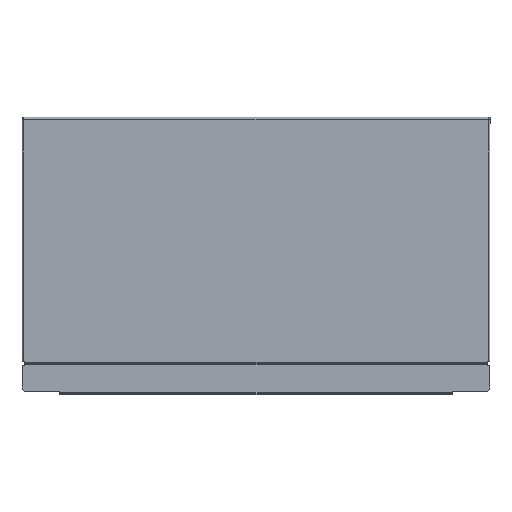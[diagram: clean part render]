
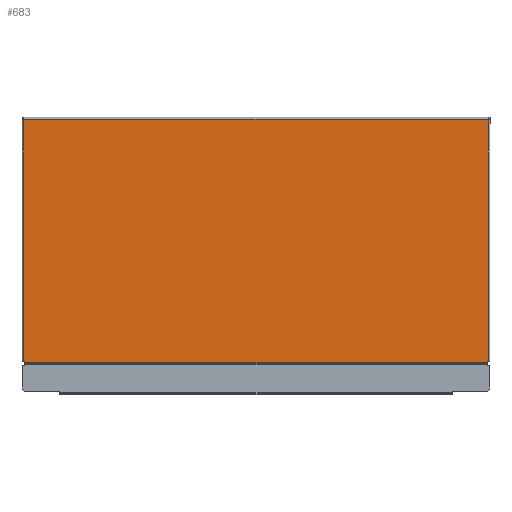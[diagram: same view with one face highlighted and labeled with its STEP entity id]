
A CAD part, front view. The second image highlights one B-rep face of the part: STEP entity #683.
In plain terms, the highlighted planar face has unit normal (0, -1, 0).
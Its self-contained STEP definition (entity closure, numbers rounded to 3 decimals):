
#1 = DIRECTION ( 'NONE',  ( 1., 0., 0. ) ) ;
#2 = CARTESIAN_POINT ( 'NONE',  ( 128.5, -6., 17.5 ) ) ;
#11 = DIRECTION ( 'NONE',  ( 0., 0., -1. ) ) ;
#12 = CARTESIAN_POINT ( 'NONE',  ( 129., -6., 170.385 ) ) ;
#13 = DIRECTION ( 'NONE',  ( 0., 0., -1. ) ) ;
#59 = VERTEX_POINT ( 'NONE', #463 ) ;
#128 = DIRECTION ( 'NONE',  ( 1., 0., 0. ) ) ;
#129 = VERTEX_POINT ( 'NONE', #439 ) ;
#130 = DIRECTION ( 'NONE',  ( 0., -1., 0. ) ) ;
#131 = CARTESIAN_POINT ( 'NONE',  ( -130., -6., 17. ) ) ;
#133 = PLANE ( 'NONE',  #1305 ) ;
#246 = CARTESIAN_POINT ( 'NONE',  ( 129., -6., 170.385 ) ) ;
#254 = DIRECTION ( 'NONE',  ( 1., 0., 0. ) ) ;
#280 = CARTESIAN_POINT ( 'NONE',  ( -130., -6., 152. ) ) ;
#285 = DIRECTION ( 'NONE',  ( 0., 0., -1. ) ) ;
#302 = CARTESIAN_POINT ( 'NONE',  ( -129., -6., 170.385 ) ) ;
#317 = VERTEX_POINT ( 'NONE', #388 ) ;
#328 = CARTESIAN_POINT ( 'NONE',  ( 129., -6., 151.5 ) ) ;
#330 = CARTESIAN_POINT ( 'NONE',  ( 128.5, -6., 17.5 ) ) ;
#336 = CARTESIAN_POINT ( 'NONE',  ( 128.5, -6., 17. ) ) ;
#338 = CARTESIAN_POINT ( 'NONE',  ( -128.5, -6., 17. ) ) ;
#345 = CARTESIAN_POINT ( 'NONE',  ( 129., -6., 17.5 ) ) ;
#346 = CARTESIAN_POINT ( 'NONE',  ( -129., -6., 151.5 ) ) ;
#354 = CARTESIAN_POINT ( 'NONE',  ( 129., -6., 152. ) ) ;
#388 = CARTESIAN_POINT ( 'NONE',  ( -129., -6., 152. ) ) ;
#439 = CARTESIAN_POINT ( 'NONE',  ( -128.5, -6., 17.5 ) ) ;
#463 = CARTESIAN_POINT ( 'NONE',  ( -129., -6., 17.5 ) ) ;
#531 = VERTEX_POINT ( 'NONE', #354 ) ;
#537 = VERTEX_POINT ( 'NONE', #346 ) ;
#538 = VERTEX_POINT ( 'NONE', #345 ) ;
#545 = VERTEX_POINT ( 'NONE', #338 ) ;
#547 = VERTEX_POINT ( 'NONE', #336 ) ;
#553 = VERTEX_POINT ( 'NONE', #330 ) ;
#555 = VERTEX_POINT ( 'NONE', #328 ) ;
#560 = CARTESIAN_POINT ( 'NONE',  ( -130., -6., 17. ) ) ;
#561 = DIRECTION ( 'NONE',  ( 1., 0., 0. ) ) ;
#588 = CARTESIAN_POINT ( 'NONE',  ( -129., -6., 170.385 ) ) ;
#589 = DIRECTION ( 'NONE',  ( 0., 0., -1. ) ) ;
#608 = CARTESIAN_POINT ( 'NONE',  ( -130., -6., 17.5 ) ) ;
#609 = DIRECTION ( 'NONE',  ( 1., 0., 0. ) ) ;
#610 = CARTESIAN_POINT ( 'NONE',  ( -128.5, -6., 17.5 ) ) ;
#611 = DIRECTION ( 'NONE',  ( 0., 0., -1. ) ) ;
#683 = ADVANCED_FACE ( 'NONE', ( #2041 ), #133, .T. ) ;
#875 = EDGE_LOOP ( 'NONE', ( #1974, #1973, #1972, #1971, #1970, #1969, #1968, #1967, #1966, #1965 ) ) ;
#1260 = EDGE_CURVE ( 'NONE', #317, #537, #2406, .T. ) ;
#1261 = EDGE_CURVE ( 'NONE', #317, #531, #2408, .T. ) ;
#1262 = EDGE_CURVE ( 'NONE', #531, #555, #2410, .T. ) ;
#1263 = EDGE_CURVE ( 'NONE', #555, #538, #2412, .T. ) ;
#1264 = EDGE_CURVE ( 'NONE', #553, #538, #2414, .T. ) ;
#1265 = EDGE_CURVE ( 'NONE', #547, #553, #2416, .T. ) ;
#1266 = EDGE_CURVE ( 'NONE', #545, #547, #2418, .T. ) ;
#1305 = AXIS2_PLACEMENT_3D ( 'NONE', #131, #130, #128 ) ;
#1472 = EDGE_CURVE ( 'NONE', #537, #59, #2442, .T. ) ;
#1501 = EDGE_CURVE ( 'NONE', #59, #129, #2453, .T. ) ;
#1502 = EDGE_CURVE ( 'NONE', #129, #545, #2456, .T. ) ;
#1965 = ORIENTED_EDGE ( 'NONE', *, *, #1260, .T. ) ;
#1966 = ORIENTED_EDGE ( 'NONE', *, *, #1261, .F. ) ;
#1967 = ORIENTED_EDGE ( 'NONE', *, *, #1262, .F. ) ;
#1968 = ORIENTED_EDGE ( 'NONE', *, *, #1263, .F. ) ;
#1969 = ORIENTED_EDGE ( 'NONE', *, *, #1264, .T. ) ;
#1970 = ORIENTED_EDGE ( 'NONE', *, *, #1265, .T. ) ;
#1971 = ORIENTED_EDGE ( 'NONE', *, *, #1266, .T. ) ;
#1972 = ORIENTED_EDGE ( 'NONE', *, *, #1502, .T. ) ;
#1973 = ORIENTED_EDGE ( 'NONE', *, *, #1501, .T. ) ;
#1974 = ORIENTED_EDGE ( 'NONE', *, *, #1472, .T. ) ;
#2041 = FACE_OUTER_BOUND ( 'NONE', #875, .T. ) ;
#2406 = LINE ( 'NONE', #302, #2407 ) ;
#2407 = VECTOR ( 'NONE', #285, 1000. ) ;
#2408 = LINE ( 'NONE', #280, #2409 ) ;
#2409 = VECTOR ( 'NONE', #254, 1000. ) ;
#2410 = LINE ( 'NONE', #246, #2411 ) ;
#2411 = VECTOR ( 'NONE', #13, 1000. ) ;
#2412 = LINE ( 'NONE', #12, #2413 ) ;
#2413 = VECTOR ( 'NONE', #11, 1000. ) ;
#2414 = LINE ( 'NONE', #2, #2415 ) ;
#2415 = VECTOR ( 'NONE', #1, 1000. ) ;
#2416 = LINE ( 'NONE', #2483, #2417 ) ;
#2417 = VECTOR ( 'NONE', #2484, 1000. ) ;
#2418 = LINE ( 'NONE', #560, #2419 ) ;
#2419 = VECTOR ( 'NONE', #561, 1000. ) ;
#2442 = LINE ( 'NONE', #588, #2443 ) ;
#2443 = VECTOR ( 'NONE', #589, 1000. ) ;
#2453 = LINE ( 'NONE', #608, #2455 ) ;
#2455 = VECTOR ( 'NONE', #609, 1000. ) ;
#2456 = LINE ( 'NONE', #610, #2457 ) ;
#2457 = VECTOR ( 'NONE', #611, 1000. ) ;
#2483 = CARTESIAN_POINT ( 'NONE',  ( 128.5, -6., 15.3 ) ) ;
#2484 = DIRECTION ( 'NONE',  ( 0., 0., 1. ) ) ;
